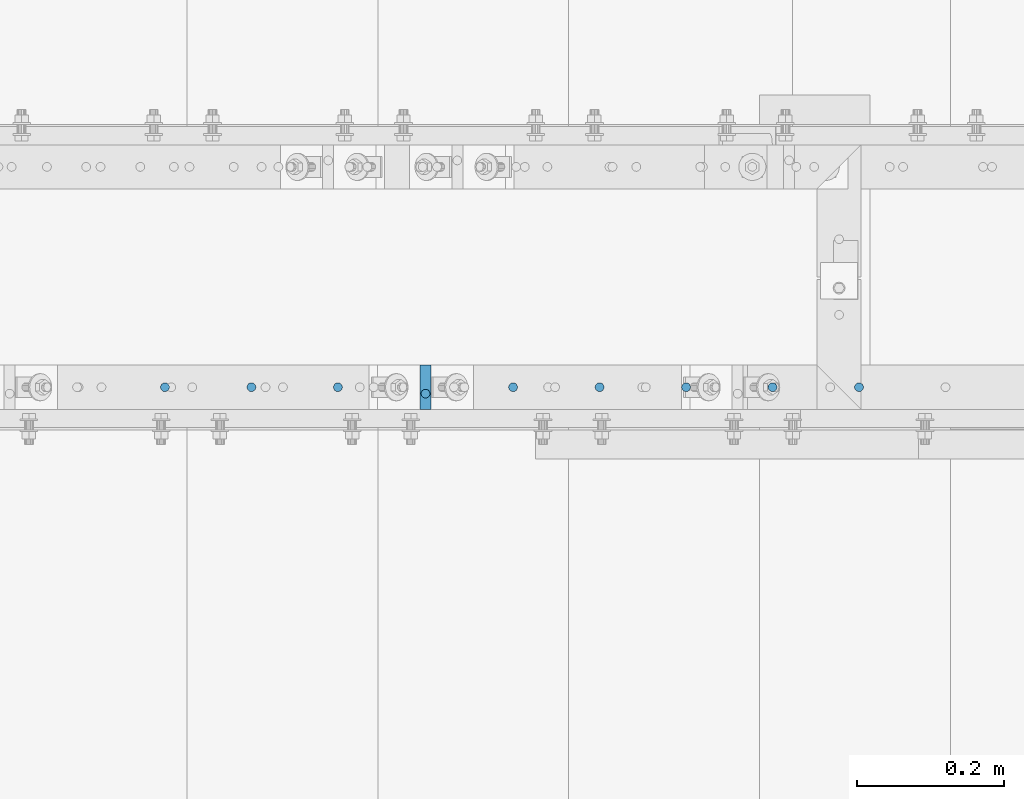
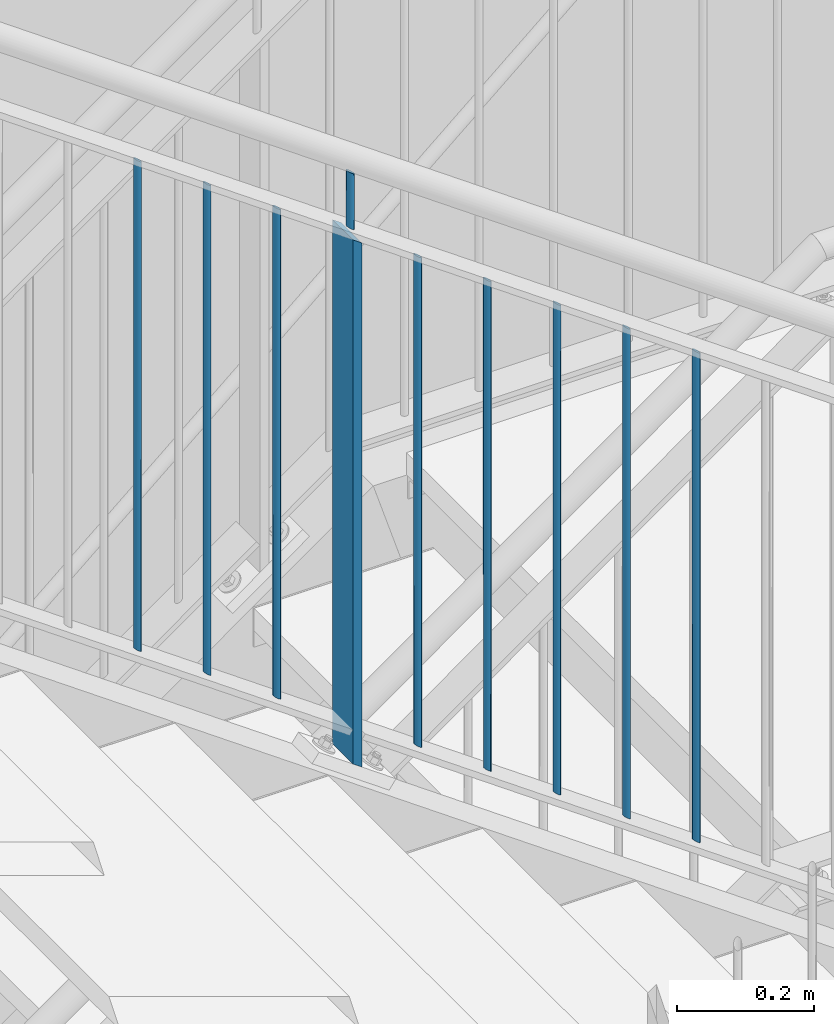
# One storey, part 58 of 817: 10 columns.
"""IFC2X3 building model written with IfcOpenShell, lengths in millimetres."""

from ifc_helpers import new_model, entity, si_unit, converted_unit, frame, origin, origin_with_axes, origin_2d, place, context, project, spatial, rectangle, circle, extrude, clip, halfspace, material, element, save


model = new_model("IFC2X3")

# Units and contexts
model_context = context("Model", 3, precision=1e-09, world=origin_with_axes())
ifc_project = project(units=[si_unit("LENGTHUNIT", "METRE", prefix="MILLI"), si_unit("AREAUNIT", "SQUARE_METRE"), si_unit("VOLUMEUNIT", "CUBIC_METRE"), converted_unit("PLANEANGLEUNIT", "DEGREE", entity("IfcPlaneAngleMeasure", 0.01745329), si_unit("PLANEANGLEUNIT", "RADIAN"), dimensions=[0, 0, 0, 0, 0, 0, 0])], contexts=[model_context])

# Site, building, storey
site_placement = place(None, origin_with_axes())
site = spatial("IfcSite", under=ifc_project, at=site_placement, Name="Cnopf'sche Kinderklinik", CompositionType="ELEMENT")
building_placement = place(site_placement, origin_with_axes())
building = spatial("IfcBuilding", under=site, at=building_placement, Name="Struktur 1", CompositionType="ELEMENT")
storey_placement = place(building_placement, origin_with_axes())
storey = spatial("IfcBuildingStorey", under=building, at=storey_placement, Name="Default Storey", CompositionType="ELEMENT", Elevation=0.0)

# Columns
ifc_material = material(Name="S235JR")
column_1_placement = place(None, frame((6601.71406966, 5791.736971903, 3914.857222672), z_axis=(0.0, 0.0, 1.0), x_axis=(-1.0, 0.0, 0.0)))
element("IfcColumn", 1, at=column_1_placement, inside=storey, material=ifc_material, Name="Railing_Post_Stair#1", ObjectType="Railing_Post_Stair#1", context=model_context, shape_type="Clipping", body=[
    clip(clip(extrude(rectangle(XDim=15.0, YDim=60.0, at=origin_2d()), origin(), (0.0, 0.0, -1.0), 1013.069146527), halfspace(frame((2992.162221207, 5791.736971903, 1155.141676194), z_axis=(-0.579973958, 0.0, 0.814635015), x_axis=(0.0, -1.0, 0.0)), True)), halfspace(frame((2549.390953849, 5791.736971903, 1777.060942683), z_axis=(0.579973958, 0.0, -0.814635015), x_axis=(0.0, 1.0, 0.0)), True)),
])
column_2_placement = place(None, frame((7191.964291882, 5791.736971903, 3467.088883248), z_axis=(0.0, 0.0, 1.0), x_axis=(-1.0, 0.0, 0.0)))
element("IfcColumn", 2, at=column_2_placement, inside=storey, material=ifc_material, Name="Railing_Picket_Stair#2", ObjectType="Railing_Picket_Stair#2", context=model_context, shape_type="Clipping", body=[
    clip(clip(extrude(circle(Radius=6.0, at=origin_2d()), origin(), (0.0, 0.0, -1.0), 896.604693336), halfspace(frame((3139.641176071, 5791.736971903, 2224.829282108), z_axis=(0.579973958, 0.0, -0.814635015), x_axis=(0.0, 1.0, 0.0)), True)), halfspace(frame((3553.413745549, 5791.736971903, 1643.641766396), z_axis=(-0.579973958, 0.0, 0.814635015), x_axis=(0.0, -1.0, 0.0)), True)),
])
column_3_placement = place(None, frame((7074.214236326, 5791.736971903, 3550.92024873), z_axis=(0.0, 0.0, 1.0), x_axis=(-1.0, 0.0, 0.0)))
element("IfcColumn", 3, at=column_3_placement, inside=storey, material=ifc_material, Name="Railing_Picket_Stair#3", ObjectType="Railing_Picket_Stair#3", context=model_context, shape_type="Clipping", body=[
    clip(clip(extrude(circle(Radius=6.0, at=origin_2d()), origin(), (0.0, 0.0, -1.0), 896.604693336), halfspace(frame((3021.891120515, 5791.736971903, 2140.997916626), z_axis=(0.579973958, 0.0, -0.814635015), x_axis=(0.0, 1.0, 0.0)), True)), halfspace(frame((3435.663689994, 5791.736971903, 1559.810400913), z_axis=(-0.579973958, 0.0, 0.814635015), x_axis=(0.0, -1.0, 0.0)), True)),
])
column_4_placement = place(None, frame((6956.464180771, 5791.736971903, 3634.751614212), z_axis=(0.0, 0.0, 1.0), x_axis=(-1.0, 0.0, 0.0)))
element("IfcColumn", 4, at=column_4_placement, inside=storey, material=ifc_material, Name="Railing_Picket_Stair#4", ObjectType="Railing_Picket_Stair#4", context=model_context, shape_type="Clipping", body=[
    clip(clip(extrude(circle(Radius=6.0, at=origin_2d()), origin(), (0.0, 0.0, -1.0), 896.604693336), halfspace(frame((2904.14106496, 5791.736971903, 2057.166551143), z_axis=(0.579973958, 0.0, -0.814635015), x_axis=(0.0, 1.0, 0.0)), True)), halfspace(frame((3317.913634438, 5791.736971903, 1475.979035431), z_axis=(-0.579973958, 0.0, 0.814635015), x_axis=(0.0, -1.0, 0.0)), True)),
])
column_5_placement = place(None, frame((6838.714125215, 5791.736971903, 3718.582979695), z_axis=(0.0, 0.0, 1.0), x_axis=(-1.0, 0.0, 0.0)))
element("IfcColumn", 5, at=column_5_placement, inside=storey, material=ifc_material, Name="Railing_Picket_Stair#5", ObjectType="Railing_Picket_Stair#5", context=model_context, shape_type="Clipping", body=[
    clip(clip(extrude(circle(Radius=6.0, at=origin_2d()), origin(), (0.0, 0.0, -1.0), 896.604693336), halfspace(frame((2786.391009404, 5791.736971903, 1973.335185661), z_axis=(0.579973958, 0.0, -0.814635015), x_axis=(0.0, 1.0, 0.0)), True)), halfspace(frame((3200.163578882, 5791.736971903, 1392.147669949), z_axis=(-0.579973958, 0.0, 0.814635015), x_axis=(0.0, -1.0, 0.0)), True)),
])
column_6_placement = place(None, frame((6720.96406966, 5791.736971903, 3802.414345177), z_axis=(0.0, 0.0, 1.0), x_axis=(-1.0, 0.0, 0.0)))
element("IfcColumn", 6, at=column_6_placement, inside=storey, material=ifc_material, Name="Railing_Picket_Stair#6", ObjectType="Railing_Picket_Stair#6", context=model_context, shape_type="Clipping", body=[
    clip(clip(extrude(circle(Radius=6.0, at=origin_2d()), origin(), (0.0, 0.0, -1.0), 896.604693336), halfspace(frame((2668.640953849, 5791.736971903, 1889.503820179), z_axis=(0.579973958, 0.0, -0.814635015), x_axis=(0.0, 1.0, 0.0)), True)), halfspace(frame((3082.413523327, 5791.736971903, 1308.316304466), z_axis=(-0.579973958, 0.0, 0.814635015), x_axis=(0.0, -1.0, 0.0)), True)),
])
column_7_placement = place(None, frame((6482.46406966, 5791.736971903, 3972.212826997), z_axis=(0.0, 0.0, 1.0), x_axis=(-1.0, 0.0, 0.0)))
element("IfcColumn", 7, at=column_7_placement, inside=storey, material=ifc_material, Name="Railing_Picket_Stair#7", ObjectType="Railing_Picket_Stair#7", context=model_context, shape_type="Clipping", body=[
    clip(clip(extrude(circle(Radius=6.0, at=origin_2d()), origin(), (0.0, 0.0, -1.0), 896.604693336), halfspace(frame((2430.140953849, 5791.736971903, 1719.705338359), z_axis=(0.579973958, 0.0, -0.814635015), x_axis=(0.0, 1.0, 0.0)), True)), halfspace(frame((2843.913523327, 5791.736971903, 1138.517822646), z_axis=(-0.579973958, 0.0, 0.814635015), x_axis=(0.0, -1.0, 0.0)), True)),
])
column_8_placement = place(None, frame((6364.714014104, 5791.736971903, 4056.044192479), z_axis=(0.0, 0.0, 1.0), x_axis=(-1.0, 0.0, 0.0)))
element("IfcColumn", 8, at=column_8_placement, inside=storey, material=ifc_material, Name="Railing_Picket_Stair#8", ObjectType="Railing_Picket_Stair#8", context=model_context, shape_type="Clipping", body=[
    clip(clip(extrude(circle(Radius=6.0, at=origin_2d()), origin(), (0.0, 0.0, -1.0), 896.604693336), halfspace(frame((2312.390898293, 5791.736971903, 1635.873972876), z_axis=(0.579973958, 0.0, -0.814635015), x_axis=(0.0, 1.0, 0.0)), True)), halfspace(frame((2726.163467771, 5791.736971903, 1054.686457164), z_axis=(-0.579973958, 0.0, 0.814635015), x_axis=(0.0, -1.0, 0.0)), True)),
])
column_9_placement = place(None, frame((6246.963958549, 5791.736971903, 4139.875557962), z_axis=(0.0, 0.0, 1.0), x_axis=(-1.0, 0.0, 0.0)))
element("IfcColumn", 9, at=column_9_placement, inside=storey, material=ifc_material, Name="Railing_Picket_Stair#9", ObjectType="Railing_Picket_Stair#9", context=model_context, shape_type="Clipping", body=[
    clip(clip(extrude(circle(Radius=6.0, at=origin_2d()), origin(), (0.0, 0.0, -1.0), 896.604693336), halfspace(frame((2194.640842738, 5791.736971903, 1552.042607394), z_axis=(0.579973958, 0.0, -0.814635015), x_axis=(0.0, 1.0, 0.0)), True)), halfspace(frame((2608.413412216, 5791.736971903, 970.855091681), z_axis=(-0.579973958, 0.0, 0.814635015), x_axis=(0.0, -1.0, 0.0)), True)),
])
column_10_placement = place(None, frame((6601.71406966, 5782.936971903, 3999.589022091), z_axis=(0.0, 0.0, 1.0), x_axis=(0.0, 1.0, 0.0)))
element("IfcColumn", 10, at=column_10_placement, inside=storey, material=ifc_material, Name="Bar#1", ObjectType="Bar#1", context=model_context, shape_type="Clipping", body=[
    clip(clip(extrude(circle(Radius=6.0, at=origin_2d()), origin(), (0.0, 0.0, -1.0), 120.832105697), halfspace(frame((-5782.936971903, 2543.590054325, 1700.47712269), z_axis=(0.0, -0.579973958, 0.814635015), x_axis=(1.0, 0.0, 0.0)), True)), halfspace(frame((-5782.936971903, 2496.34450488, 1766.838514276), z_axis=(0.0, 0.579973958, -0.814635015), x_axis=(-1.0, 0.0, 0.0)), True)),
])

save(model, "model.ifc")
